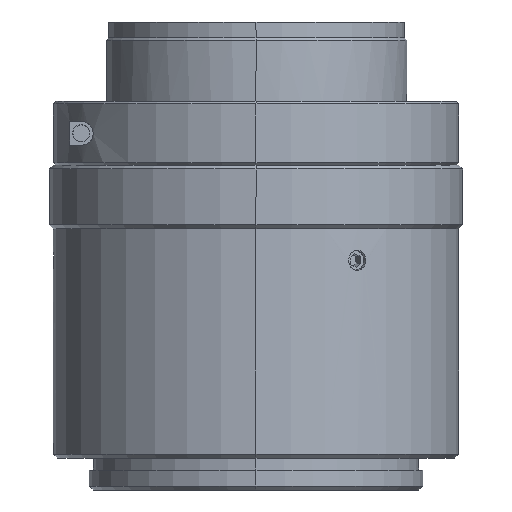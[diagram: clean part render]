
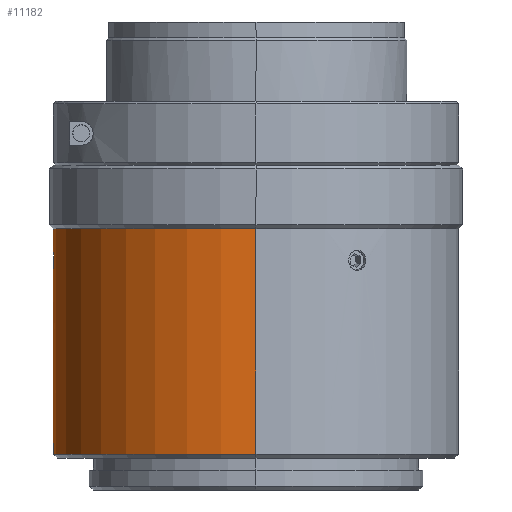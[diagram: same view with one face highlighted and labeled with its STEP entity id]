
A CAD part, left-side view. The second image highlights one B-rep face of the part: STEP entity #11182.
In plain terms, the highlighted cylindrical face has radius 25.5 mm (diameter 51 mm), a partial arc.
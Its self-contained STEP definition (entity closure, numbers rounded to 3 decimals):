
#11 = CARTESIAN_POINT ( 'NONE',  ( 0.769, 25.489, -26.601 ) ) ;
#363 = DIRECTION ( 'NONE',  ( 0., 0., 1. ) ) ;
#417 = DIRECTION ( 'NONE',  ( 1., 0., 0. ) ) ;
#543 = CARTESIAN_POINT ( 'NONE',  ( -0.767, 25.489, -28.6 ) ) ;
#763 = EDGE_CURVE ( 'NONE', #10941, #1485, #7913, .T. ) ;
#820 = CARTESIAN_POINT ( 'NONE',  ( 1.124, 25.475, -27.046 ) ) ;
#877 = CARTESIAN_POINT ( 'NONE',  ( 0.942, 25.483, -26.774 ) ) ;
#1075 = CARTESIAN_POINT ( 'NONE',  ( 25.5, 0., -23.6 ) ) ;
#1275 = ORIENTED_EDGE ( 'NONE', *, *, #10984, .T. ) ;
#1417 = CARTESIAN_POINT ( 'NONE',  ( -1.25, 25.469, -27.763 ) ) ;
#1448 = FACE_BOUND ( 'NONE', #11294, .T. ) ;
#1485 = VERTEX_POINT ( 'NONE', #9185 ) ;
#1558 = FACE_OUTER_BOUND ( 'NONE', #3494, .T. ) ;
#1585 = CARTESIAN_POINT ( 'NONE',  ( -1.092, 25.477, -26.971 ) ) ;
#1658 = EDGE_CURVE ( 'NONE', #3265, #2477, #7189, .T. ) ;
#1739 = CARTESIAN_POINT ( 'NONE',  ( 0., 0., -23.6 ) ) ;
#2134 = CARTESIAN_POINT ( 'NONE',  ( 0., 25.5, -26.35 ) ) ;
#2262 = ORIENTED_EDGE ( 'NONE', *, *, #5708, .F. ) ;
#2452 = CARTESIAN_POINT ( 'NONE',  ( 0., 25.5, -26.35 ) ) ;
#2477 = VERTEX_POINT ( 'NONE', #8326 ) ;
#2776 = CARTESIAN_POINT ( 'NONE',  ( 1.25, 25.469, -27.436 ) ) ;
#2808 = CARTESIAN_POINT ( 'NONE',  ( -25.5, 0., -23.6 ) ) ;
#2911 = AXIS2_PLACEMENT_3D ( 'NONE', #8299, #363, #417 ) ;
#2969 = CARTESIAN_POINT ( 'NONE',  ( -0.082, 25.5, -28.85 ) ) ;
#3198 = CARTESIAN_POINT ( 'NONE',  ( -0.403, 25.497, -28.786 ) ) ;
#3265 = VERTEX_POINT ( 'NONE', #5625 ) ;
#3347 = DIRECTION ( 'NONE',  ( 0., 0., 1. ) ) ;
#3408 = CARTESIAN_POINT ( 'NONE',  ( 0.628, 25.493, -28.693 ) ) ;
#3447 = VERTEX_POINT ( 'NONE', #6943 ) ;
#3449 = AXIS2_PLACEMENT_3D ( 'NONE', #1739, #9629, #9684 ) ;
#3488 = LINE ( 'NONE', #7022, #7546 ) ;
#3494 = EDGE_LOOP ( 'NONE', ( #9193, #3786, #11042, #2262 ) ) ;
#3571 = LINE ( 'NONE', #2808, #7324 ) ;
#3646 = CARTESIAN_POINT ( 'NONE',  ( 0.328, 25.498, -28.817 ) ) ;
#3786 = ORIENTED_EDGE ( 'NONE', *, *, #8146, .T. ) ;
#4070 = CARTESIAN_POINT ( 'NONE',  ( -0.63, 25.493, -26.508 ) ) ;
#4104 = CARTESIAN_POINT ( 'NONE',  ( 0., 0., -23.6 ) ) ;
#4242 = CARTESIAN_POINT ( 'NONE',  ( -1.218, 25.471, -27.927 ) ) ;
#4544 = DIRECTION ( 'NONE',  ( 0., 0., 1. ) ) ;
#4676 = CARTESIAN_POINT ( 'NONE',  ( 0.165, 25.5, -26.35 ) ) ;
#4936 = CARTESIAN_POINT ( 'NONE',  ( -0.327, 25.498, -26.383 ) ) ;
#5105 = CARTESIAN_POINT ( 'NONE',  ( -1.217, 25.471, -27.272 ) ) ;
#5266 = CARTESIAN_POINT ( 'NONE',  ( 1.218, 25.471, -27.274 ) ) ;
#5333 = CARTESIAN_POINT ( 'NONE',  ( 0.995, 25.481, -26.839 ) ) ;
#5372 = VERTEX_POINT ( 'NONE', #1075 ) ;
#5625 = CARTESIAN_POINT ( 'NONE',  ( 0., 25.5, -26.35 ) ) ;
#5708 = EDGE_CURVE ( 'NONE', #10941, #5372, #3488, .T. ) ;
#5810 = CARTESIAN_POINT ( 'NONE',  ( -1.001, 25.481, -28.367 ) ) ;
#5994 = CARTESIAN_POINT ( 'NONE',  ( -0.769, 25.489, -26.601 ) ) ;
#6089 = CARTESIAN_POINT ( 'NONE',  ( 1.092, 25.477, -28.231 ) ) ;
#6224 = CIRCLE ( 'NONE', #3449, 25.5 ) ;
#6506 = CARTESIAN_POINT ( 'NONE',  ( 0., 25.5, -28.85 ) ) ;
#6655 = CYLINDRICAL_SURFACE ( 'NONE', #7340, 25.5 ) ;
#6942 = CARTESIAN_POINT ( 'NONE',  ( 0.999, 25.481, -28.369 ) ) ;
#6943 = CARTESIAN_POINT ( 'NONE',  ( -25.5, 0., -23.6 ) ) ;
#7007 = CARTESIAN_POINT ( 'NONE',  ( 25.5, 0., -52. ) ) ;
#7022 = CARTESIAN_POINT ( 'NONE',  ( 25.5, 0., -23.6 ) ) ;
#7062 = CARTESIAN_POINT ( 'NONE',  ( 0.63, 25.493, -26.508 ) ) ;
#7180 = CARTESIAN_POINT ( 'NONE',  ( 0.768, 25.489, -28.6 ) ) ;
#7189 = B_SPLINE_CURVE_WITH_KNOTS ( 'NONE', 3,
 ( #2452, #11113, #4936, #4070, #5994, #9527, #1585, #5105, #10244, #1417, #4242, #11335, #5810, #543, #11171, #3198, #8248, #10946, #2969, #6506 ),
 .UNSPECIFIED., .F., .F.,
 ( 4, 2, 2, 2, 2, 2, 2, 2, 2, 4 ),
 ( 0., 0., 0.001, 0.001, 0.002, 0.002, 0.003, 0.003, 0.004, 0.004 ),
 .UNSPECIFIED. ) ;
#7324 = VECTOR ( 'NONE', #4544, 1000. ) ;
#7340 = AXIS2_PLACEMENT_3D ( 'NONE', #4104, #3347, #10216 ) ;
#7546 = VECTOR ( 'NONE', #11334, 1000. ) ;
#7913 = CIRCLE ( 'NONE', #2911, 25.5 ) ;
#8047 = CARTESIAN_POINT ( 'NONE',  ( 0., 25.5, -28.85 ) ) ;
#8146 = EDGE_CURVE ( 'NONE', #1485, #3447, #3571, .T. ) ;
#8248 = CARTESIAN_POINT ( 'NONE',  ( -0.325, 25.498, -28.81 ) ) ;
#8299 = CARTESIAN_POINT ( 'NONE',  ( 0., 0., -52. ) ) ;
#8326 = CARTESIAN_POINT ( 'NONE',  ( 0., 25.5, -28.85 ) ) ;
#9185 = CARTESIAN_POINT ( 'NONE',  ( -25.5, 0., -52. ) ) ;
#9193 = ORIENTED_EDGE ( 'NONE', *, *, #763, .T. ) ;
#9243 = ORIENTED_EDGE ( 'NONE', *, *, #1658, .T. ) ;
#9342 = B_SPLINE_CURVE_WITH_KNOTS ( 'NONE', 3,
 ( #8047, #11374, #3646, #3408, #7180, #6942, #6089, #9813, #9631, #2776, #5266, #820, #9687, #5333, #877, #11, #7062, #10631, #4676, #2134 ),
 .UNSPECIFIED., .F., .F.,
 ( 4, 2, 2, 2, 2, 2, 2, 2, 2, 4 ),
 ( 0.004, 0.004, 0.005, 0.005, 0.006, 0.006, 0.007, 0.007, 0.007, 0.008 ),
 .UNSPECIFIED. ) ;
#9527 = CARTESIAN_POINT ( 'NONE',  ( -0.999, 25.481, -26.832 ) ) ;
#9629 = DIRECTION ( 'NONE',  ( 0., 0., -1. ) ) ;
#9631 = CARTESIAN_POINT ( 'NONE',  ( 1.25, 25.469, -27.766 ) ) ;
#9684 = DIRECTION ( 'NONE',  ( 1., 0., 0. ) ) ;
#9687 = CARTESIAN_POINT ( 'NONE',  ( 1.085, 25.477, -26.975 ) ) ;
#9813 = CARTESIAN_POINT ( 'NONE',  ( 1.217, 25.471, -27.928 ) ) ;
#10216 = DIRECTION ( 'NONE',  ( 1., 0., 0. ) ) ;
#10244 = CARTESIAN_POINT ( 'NONE',  ( -1.25, 25.469, -27.436 ) ) ;
#10472 = EDGE_CURVE ( 'NONE', #3447, #5372, #6224, .T. ) ;
#10631 = CARTESIAN_POINT ( 'NONE',  ( 0.329, 25.498, -26.383 ) ) ;
#10941 = VERTEX_POINT ( 'NONE', #7007 ) ;
#10946 = CARTESIAN_POINT ( 'NONE',  ( -0.164, 25.5, -28.842 ) ) ;
#10984 = EDGE_CURVE ( 'NONE', #2477, #3265, #9342, .T. ) ;
#11042 = ORIENTED_EDGE ( 'NONE', *, *, #10472, .T. ) ;
#11113 = CARTESIAN_POINT ( 'NONE',  ( -0.165, 25.5, -26.35 ) ) ;
#11171 = CARTESIAN_POINT ( 'NONE',  ( -0.63, 25.493, -28.692 ) ) ;
#11182 = ADVANCED_FACE ( 'NONE', ( #1448, #1558 ), #6655, .T. ) ;
#11294 = EDGE_LOOP ( 'NONE', ( #9243, #1275 ) ) ;
#11334 = DIRECTION ( 'NONE',  ( 0., 0., 1. ) ) ;
#11335 = CARTESIAN_POINT ( 'NONE',  ( -1.092, 25.477, -28.229 ) ) ;
#11374 = CARTESIAN_POINT ( 'NONE',  ( 0.163, 25.5, -28.85 ) ) ;
